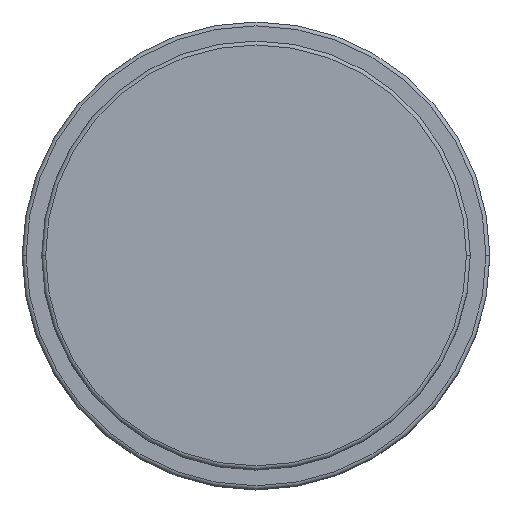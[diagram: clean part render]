
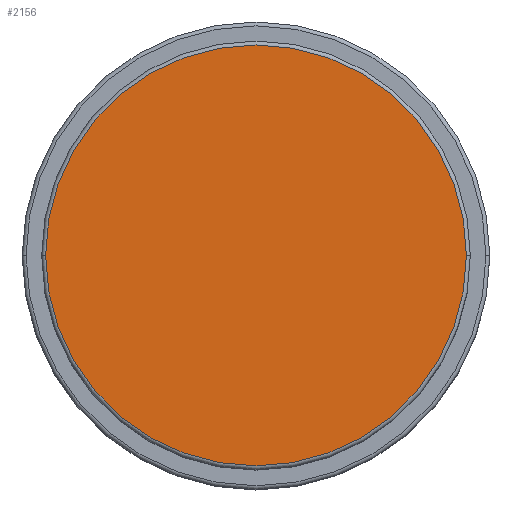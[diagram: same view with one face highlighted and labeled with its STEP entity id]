
A CAD part, top view. The second image highlights one B-rep face of the part: STEP entity #2156.
In plain terms, the highlighted planar face has unit normal (0, 0, 1).
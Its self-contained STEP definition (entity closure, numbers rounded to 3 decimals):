
#224 = ORIENTED_EDGE ( 'NONE', *, *, #2392, .T. ) ;
#517 = CARTESIAN_POINT ( 'NONE',  ( 0., 0., 56. ) ) ;
#727 = CARTESIAN_POINT ( 'NONE',  ( 27., 0., 56. ) ) ;
#1053 = VERTEX_POINT ( 'NONE', #727 ) ;
#1120 = EDGE_CURVE ( 'NONE', #1053, #1522, #4636, .T. ) ;
#1300 = PLANE ( 'NONE',  #4911 ) ;
#1491 = DIRECTION ( 'NONE',  ( 0., 0., 1. ) ) ;
#1505 = CARTESIAN_POINT ( 'NONE',  ( 0., 0., 56. ) ) ;
#1522 = VERTEX_POINT ( 'NONE', #2992 ) ;
#1575 = CIRCLE ( 'NONE', #3657, 27. ) ;
#1677 = DIRECTION ( 'NONE',  ( 1., 0., 0. ) ) ;
#1988 = FACE_OUTER_BOUND ( 'NONE', #4478, .T. ) ;
#2156 = ADVANCED_FACE ( 'NONE', ( #1988 ), #1300, .T. ) ;
#2392 = EDGE_CURVE ( 'NONE', #1522, #1053, #1575, .T. ) ;
#2599 = CARTESIAN_POINT ( 'NONE',  ( 0., 0., 56. ) ) ;
#2707 = ORIENTED_EDGE ( 'NONE', *, *, #1120, .T. ) ;
#2847 = DIRECTION ( 'NONE',  ( 0., 0., 1. ) ) ;
#2992 = CARTESIAN_POINT ( 'NONE',  ( -27., 0., 56. ) ) ;
#3341 = DIRECTION ( 'NONE',  ( 1., 0., 0. ) ) ;
#3346 = DIRECTION ( 'NONE',  ( 0., 0., 1. ) ) ;
#3608 = AXIS2_PLACEMENT_3D ( 'NONE', #1505, #1491, #3341 ) ;
#3657 = AXIS2_PLACEMENT_3D ( 'NONE', #2599, #3346, #4120 ) ;
#4120 = DIRECTION ( 'NONE',  ( 1., 0., 0. ) ) ;
#4478 = EDGE_LOOP ( 'NONE', ( #2707, #224 ) ) ;
#4636 = CIRCLE ( 'NONE', #3608, 27. ) ;
#4911 = AXIS2_PLACEMENT_3D ( 'NONE', #517, #2847, #1677 ) ;
